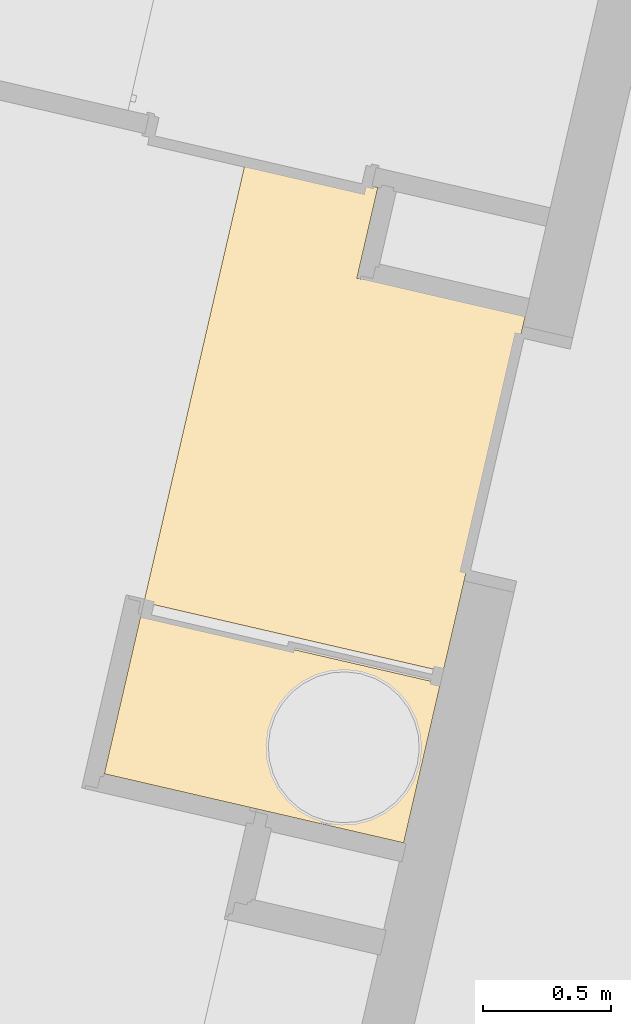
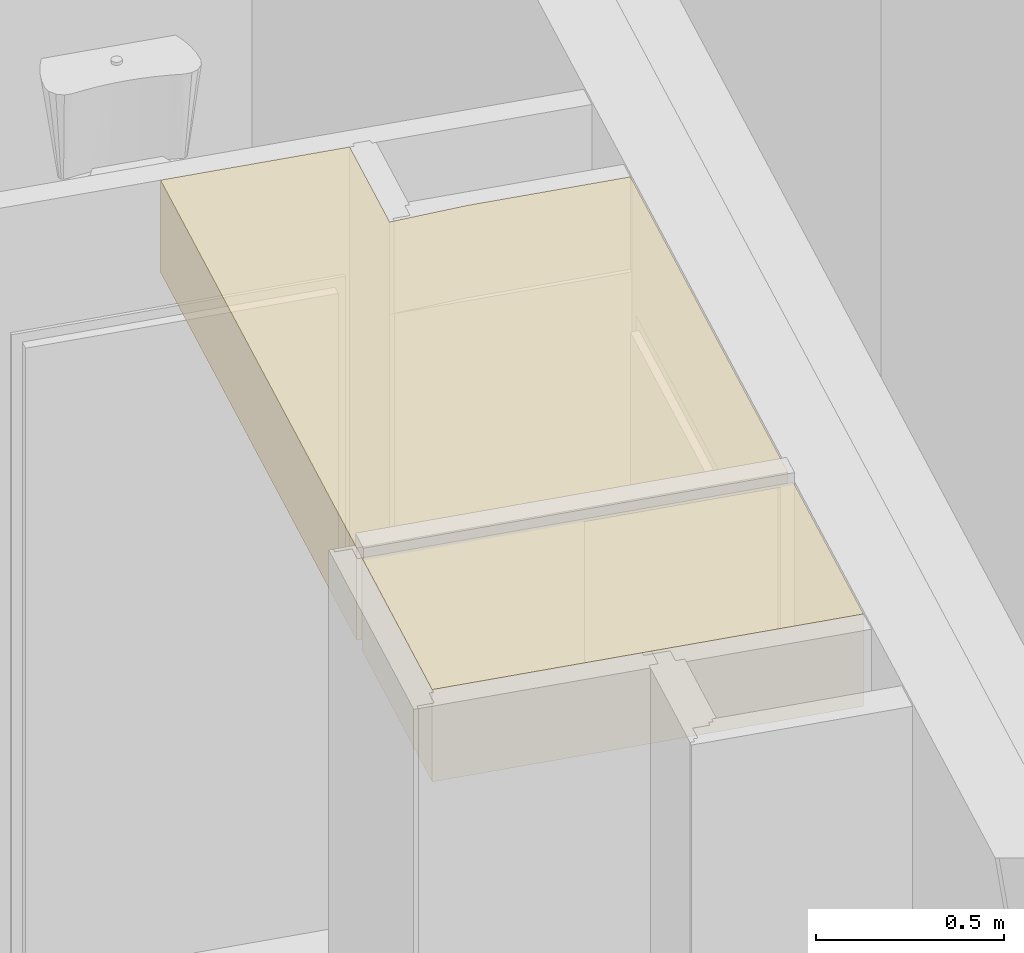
# One storey, part 63 of 90: 1 covering.
"""IFC2X3 building model written with IfcOpenShell, lengths in metres."""

from ifc_helpers import new_model, entity, si_unit, converted_unit, derived_unit, money_unit, direction, frame, origin_with_axes, place, context, subcontext, project, spatial, faceted_brep, material, type_object, element, save


model = new_model("IFC2X3")

# Units and contexts
model_context = context("Model", 3, precision=1e-05, world=origin_with_axes(), true_north=direction((0.0, 1.0)))
body_context = subcontext(model_context, "Body", "Model", "MODEL_VIEW")
ifc_project = project(units=[si_unit("LENGTHUNIT", "METRE"), si_unit("AREAUNIT", "SQUARE_METRE"), si_unit("VOLUMEUNIT", "CUBIC_METRE"), converted_unit("PLANEANGLEUNIT", "DEGREE", entity("IfcPlaneAngleMeasure", 0.0174532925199), si_unit("PLANEANGLEUNIT", "RADIAN"), dimensions=[0, 0, 0, 0, 0, 0, 0]), si_unit("SOLIDANGLEUNIT", "STERADIAN"), money_unit("EUR"), converted_unit("TIMEUNIT", "Year", entity("IfcTimeMeasure", 31556926.0), si_unit("TIMEUNIT", "SECOND"), dimensions=[0, 0, 1, 0, 0, 0, 0]), si_unit("MASSUNIT", "GRAM", prefix="KILO"), si_unit("THERMODYNAMICTEMPERATUREUNIT", "DEGREE_CELSIUS"), si_unit("LUMINOUSINTENSITYUNIT", "LUMEN"), si_unit("ENERGYUNIT", "JOULE", prefix="MEGA"), derived_unit("THERMALCONDUCTANCEUNIT", [(si_unit("POWERUNIT", "WATT"), 1), (si_unit("LENGTHUNIT", "METRE"), -1), (si_unit("THERMODYNAMICTEMPERATUREUNIT", "KELVIN"), -1)]), derived_unit("SPECIFICHEATCAPACITYUNIT", [(si_unit("ENERGYUNIT", "JOULE"), 1), (si_unit("MASSUNIT", "GRAM", prefix="KILO"), -1), (si_unit("THERMODYNAMICTEMPERATUREUNIT", "KELVIN"), -1)]), derived_unit("MASSDENSITYUNIT", [(si_unit("MASSUNIT", "GRAM", prefix="KILO"), 1), (si_unit("VOLUMEUNIT", "CUBIC_METRE"), -1)])], contexts=[model_context])

# Site, building, storey
site_placement = place(None, origin_with_axes())
site = spatial("IfcSite", under=ifc_project, at=site_placement, Name="Site", CompositionType="ELEMENT")
building_placement = place(site_placement, origin_with_axes())
building = spatial("IfcBuilding", under=site, at=building_placement, Name="Bâtiment", CompositionType="ELEMENT")
storey_placement = place(building_placement, frame((0.0, 0.0, 2.72), z_axis=(0.0, 0.0, 1.0), x_axis=(1.0, 0.0, 0.0)))
storey = spatial("IfcBuildingStorey", under=building, at=storey_placement, Name="R+1", CompositionType="ELEMENT", Elevation=2.72)

# Covering
ifc_material = material(Name="Finition int - Plaque de plâtre")
covering_type = type_object("IfcCoveringType", Name="Finition int - Plaque de plâtre 300", PredefinedType="CEILING")
covering_placement = place(storey_placement, frame((-13.8972533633, -12.9143163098, 2.5), z_axis=(0.0, 0.0, 1.0), x_axis=(1.0, 0.0, 0.0)))
element("IfcCovering", 1, at=covering_placement, inside=storey, type_object=covering_type, material=ifc_material, Name="Dalle_004", PredefinedType="CEILING", context=body_context, shape_type="Brep", body=[
    faceted_brep([(0.0, 0.0, -0.3), (0.14369589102, 0.622633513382, -0.3), (0.14369589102, 0.622633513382, 0.0), (0.0, 0.0, 0.0), (-1.16926481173, 0.269851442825, -0.3), (-1.02556892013, 0.892484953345, -0.3), (-1.02556892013, 0.892484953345, 0.0), (-1.16926481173, 0.269851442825, 0.0)], [[[0, 1, 2, 3]], [[4, 5, 1, 0]], [[5, 6, 2, 1]], [[3, 2, 6, 7]], [[3, 7, 4, 0]], [[7, 6, 5, 4]]]),
    faceted_brep([(0.154489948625, 0.669404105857, -0.3), (0.476857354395, 2.06622031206, -0.3), (0.476857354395, 2.06622031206, 0.0), (0.154489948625, 0.669404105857, 0.0), (-0.182803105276, 2.20511983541, -0.3), (0.033559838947, 2.16852773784, -0.3), (-1.01477486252, 0.939255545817, -0.3), (-0.613475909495, 2.67808170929, -0.3), (-0.100948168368, 2.55979682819, -0.3), (0.0335598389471, 2.16852773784, 0.0), (-0.182803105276, 2.20511983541, 0.0), (-0.100948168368, 2.55979682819, 0.0), (-0.613475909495, 2.67808170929, 0.0), (-1.01477486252, 0.939255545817, 0.0)], [[[0, 1, 2, 3]], [[4, 5, 1, 0, 6, 7, 8]], [[5, 9, 2, 1]], [[3, 2, 9, 10, 11, 12, 13]], [[6, 0, 3, 13]], [[10, 9, 5, 4]], [[7, 6, 13, 12]], [[12, 11, 8, 7]], [[11, 10, 4, 8]]]),
])

save(model, "model.ifc")
